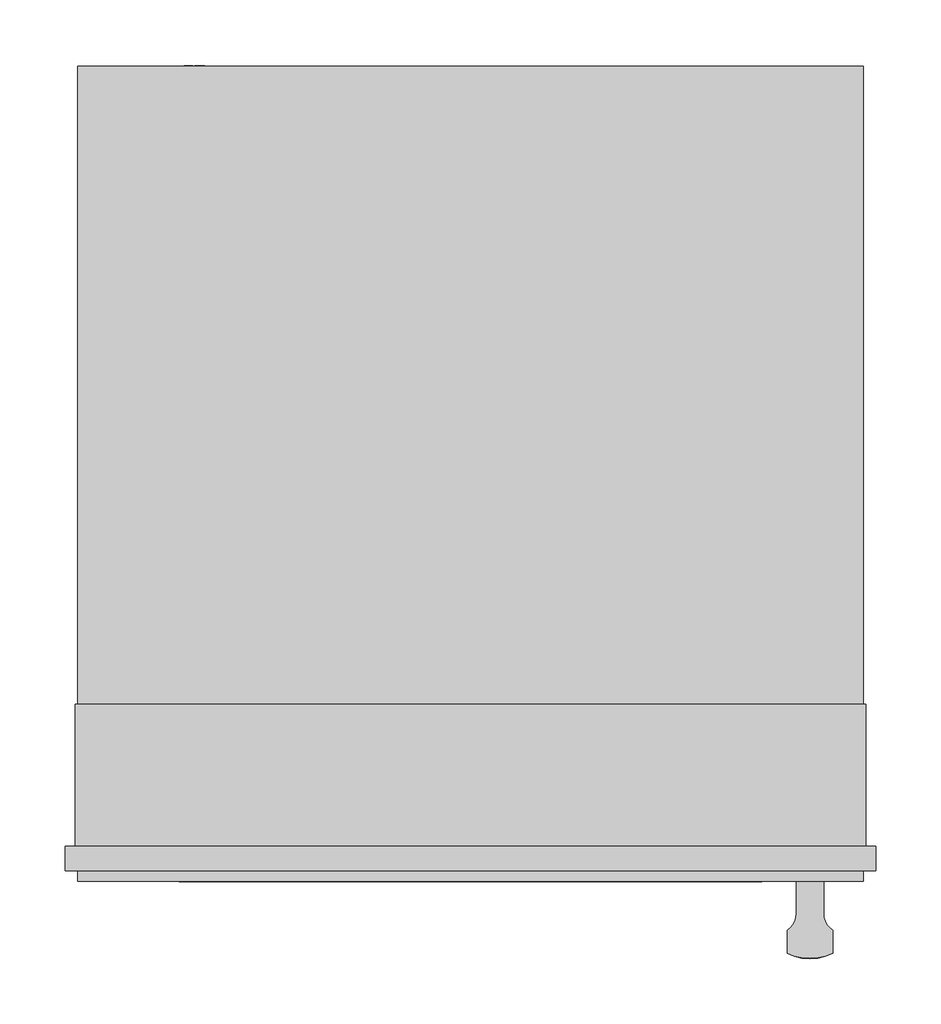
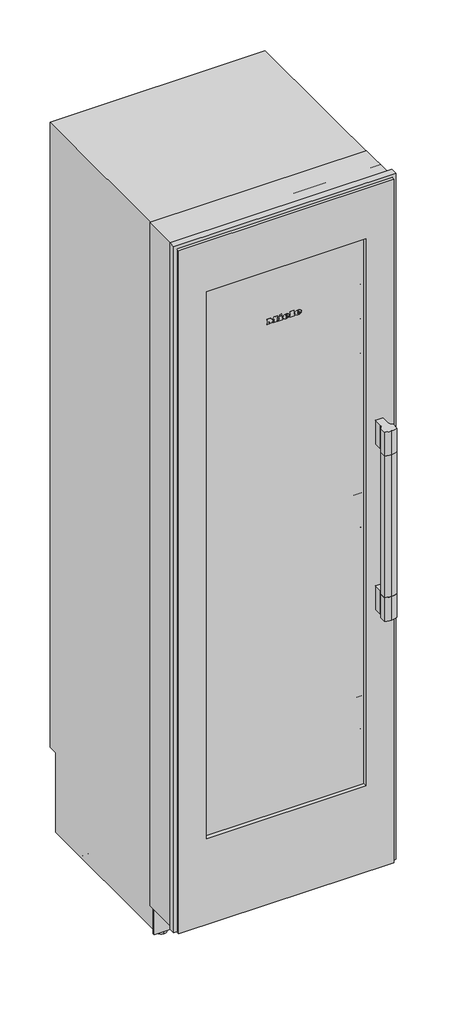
# Not in any storey: 1 proxy.
"""IFC4 building model written with IfcOpenShell, lengths in millimetres."""

from ifc_helpers import new_model, si_unit, origin, place, context, project, spatial, transform, mapped, element, save
from components import specialty_equipment_349ab82d, specialty_equipment_2373a430, specialty_equipment_73186923, specialty_equipment_23673d5d

model = new_model("IFC4")

# Units and contexts
model_context = context("Model", 3, world=origin())
ifc_project = project(units=[si_unit("LENGTHUNIT", "METRE", prefix="MILLI")], contexts=[model_context])

# Site, building
site = spatial("IfcSite", under=ifc_project)
building = spatial("IfcBuilding", under=site)

# Proxy
placement = place(None, origin())
specialty_equipment_shape = specialty_equipment_349ab82d(model_context)
specialty_equipment_2_shape = specialty_equipment_2373a430(model_context)
specialty_equipment_3_shape = specialty_equipment_73186923(model_context)
specialty_equipment_4_shape = specialty_equipment_23673d5d(model_context)
element("IfcBuildingElementProxy", 1, Name="11503640_USA_KWT2612SF : 36261215_USA_11503640_KWT2612SF", ObjectType="11503640_USA_KWT2612SF : 36261215_USA_11503640_KWT2612SF", at=placement, inside=building, context=model_context, shape_type="MappedRepresentation", body=[
    mapped(specialty_equipment_shape, transform((0.0, 0.0, 0.0), x_axis=(1.0, 0.0, 0.0), y_axis=(0.0, 1.0, 0.0), z_axis=(0.0, 0.0, 1.0))),
    mapped(specialty_equipment_2_shape, transform((0.0, 0.0, 0.0), x_axis=(1.0, 0.0, 0.0), y_axis=(0.0, 1.0, 0.0), z_axis=(0.0, 0.0, 1.0))),
    mapped(specialty_equipment_3_shape, transform((0.0, 0.0, 0.0), x_axis=(1.0, 0.0, 0.0), y_axis=(0.0, 1.0, 0.0), z_axis=(0.0, 0.0, 1.0))),
    mapped(specialty_equipment_4_shape, transform((0.0, 0.0, 0.0), x_axis=(1.0, 0.0, 0.0), y_axis=(0.0, 1.0, 0.0), z_axis=(0.0, 0.0, 1.0))),
])

save(model, "model.ifc")
